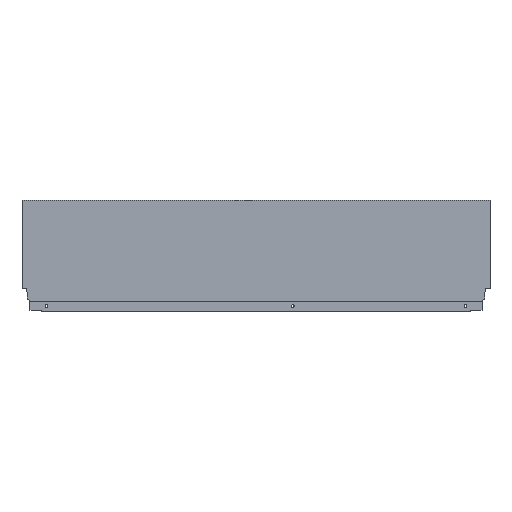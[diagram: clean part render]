
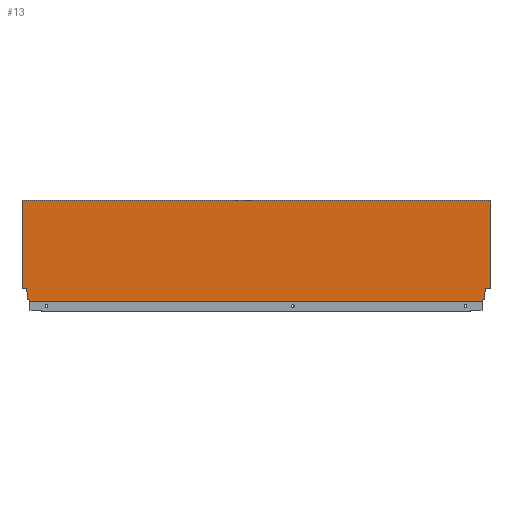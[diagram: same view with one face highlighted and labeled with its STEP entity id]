
A CAD part, top view. The second image highlights one B-rep face of the part: STEP entity #13.
In plain terms, the highlighted planar face has unit normal (0, 0, 1).
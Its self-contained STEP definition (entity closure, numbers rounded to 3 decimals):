
#13 = ADVANCED_FACE ( 'NONE', ( #276 ), #1094, .T. ) ;
#185 = ORIENTED_EDGE ( 'NONE', *, *, #521, .F. ) ;
#186 = ORIENTED_EDGE ( 'NONE', *, *, #526, .F. ) ;
#187 = ORIENTED_EDGE ( 'NONE', *, *, #523, .F. ) ;
#188 = ORIENTED_EDGE ( 'NONE', *, *, #525, .F. ) ;
#189 = ORIENTED_EDGE ( 'NONE', *, *, #527, .F. ) ;
#190 = ORIENTED_EDGE ( 'NONE', *, *, #528, .F. ) ;
#191 = ORIENTED_EDGE ( 'NONE', *, *, #530, .F. ) ;
#192 = ORIENTED_EDGE ( 'NONE', *, *, #535, .T. ) ;
#193 = ORIENTED_EDGE ( 'NONE', *, *, #540, .F. ) ;
#194 = ORIENTED_EDGE ( 'NONE', *, *, #531, .F. ) ;
#195 = ORIENTED_EDGE ( 'NONE', *, *, #532, .F. ) ;
#196 = ORIENTED_EDGE ( 'NONE', *, *, #533, .F. ) ;
#197 = ORIENTED_EDGE ( 'NONE', *, *, #534, .F. ) ;
#198 = ORIENTED_EDGE ( 'NONE', *, *, #529, .T. ) ;
#250 = EDGE_LOOP ( 'NONE', ( #198, #197, #196, #195, #194, #193, #192, #191, #190, #189, #188, #187, #186, #185 ) ) ;
#276 = FACE_OUTER_BOUND ( 'NONE', #250, .T. ) ;
#521 = EDGE_CURVE ( 'NONE', #1107, #1183, #712, .T. ) ;
#523 = EDGE_CURVE ( 'NONE', #1188, #1230, #716, .T. ) ;
#525 = EDGE_CURVE ( 'NONE', #1230, #1158, #720, .T. ) ;
#526 = EDGE_CURVE ( 'NONE', #1183, #1188, #722, .T. ) ;
#527 = EDGE_CURVE ( 'NONE', #1158, #1161, #724, .T. ) ;
#528 = EDGE_CURVE ( 'NONE', #1161, #1186, #726, .T. ) ;
#529 = EDGE_CURVE ( 'NONE', #1107, #1200, #728, .T. ) ;
#530 = EDGE_CURVE ( 'NONE', #1186, #1101, #707, .T. ) ;
#531 = EDGE_CURVE ( 'NONE', #1236, #1178, #731, .T. ) ;
#532 = EDGE_CURVE ( 'NONE', #1178, #1102, #733, .T. ) ;
#533 = EDGE_CURVE ( 'NONE', #1102, #1190, #735, .T. ) ;
#534 = EDGE_CURVE ( 'NONE', #1190, #1200, #737, .T. ) ;
#535 = EDGE_CURVE ( 'NONE', #1194, #1101, #739, .T. ) ;
#540 = EDGE_CURVE ( 'NONE', #1194, #1236, #715, .T. ) ;
#562 = AXIS2_PLACEMENT_3D ( 'NONE', #1093, #1062, #1061 ) ;
#707 = LINE ( 'NONE', #932, #730 ) ;
#709 = VECTOR ( 'NONE', #987, 1000. ) ;
#712 = LINE ( 'NONE', #1025, #713 ) ;
#713 = VECTOR ( 'NONE', #961, 1000. ) ;
#715 = LINE ( 'NONE', #985, #709 ) ;
#716 = LINE ( 'NONE', #1023, #717 ) ;
#717 = VECTOR ( 'NONE', #951, 1000. ) ;
#720 = LINE ( 'NONE', #934, #721 ) ;
#721 = VECTOR ( 'NONE', #935, 1000. ) ;
#722 = LINE ( 'NONE', #936, #723 ) ;
#723 = VECTOR ( 'NONE', #937, 1000. ) ;
#724 = LINE ( 'NONE', #939, #725 ) ;
#725 = VECTOR ( 'NONE', #940, 1000. ) ;
#726 = LINE ( 'NONE', #941, #727 ) ;
#727 = VECTOR ( 'NONE', #942, 1000. ) ;
#728 = LINE ( 'NONE', #918, #729 ) ;
#729 = VECTOR ( 'NONE', #917, 1000. ) ;
#730 = VECTOR ( 'NONE', #921, 1000. ) ;
#731 = LINE ( 'NONE', #919, #732 ) ;
#732 = VECTOR ( 'NONE', #993, 1000. ) ;
#733 = LINE ( 'NONE', #1003, #734 ) ;
#734 = VECTOR ( 'NONE', #1007, 1000. ) ;
#735 = LINE ( 'NONE', #1004, #736 ) ;
#736 = VECTOR ( 'NONE', #990, 1000. ) ;
#737 = LINE ( 'NONE', #1000, #738 ) ;
#738 = VECTOR ( 'NONE', #996, 1000. ) ;
#739 = LINE ( 'NONE', #994, #740 ) ;
#740 = VECTOR ( 'NONE', #998, 1000. ) ;
#798 = CARTESIAN_POINT ( 'NONE',  ( 0., 164.7, 7.5 ) ) ;
#800 = CARTESIAN_POINT ( 'NONE',  ( -754.1, 2.64, 7.5 ) ) ;
#807 = CARTESIAN_POINT ( 'NONE',  ( -755.94, 21.2, 7.5 ) ) ;
#809 = CARTESIAN_POINT ( 'NONE',  ( -8.9, 10.765, 7.5 ) ) ;
#810 = CARTESIAN_POINT ( 'NONE',  ( -8.9, 2.64, 7.5 ) ) ;
#820 = CARTESIAN_POINT ( 'NONE',  ( -763., 164.7, 7.5 ) ) ;
#823 = CARTESIAN_POINT ( 'NONE',  ( -13.004, 0., 7.5 ) ) ;
#832 = CARTESIAN_POINT ( 'NONE',  ( -754.1, 10.765, 7.5 ) ) ;
#847 = CARTESIAN_POINT ( 'NONE',  ( -749.996, 0., 7.5 ) ) ;
#862 = CARTESIAN_POINT ( 'NONE',  ( -763., 21.2, 7.5 ) ) ;
#917 = DIRECTION ( 'NONE',  ( 0., -1., 0. ) ) ;
#918 = CARTESIAN_POINT ( 'NONE',  ( -763., 0., 7.5 ) ) ;
#919 = CARTESIAN_POINT ( 'NONE',  ( -754.1, 2.64, 7.5 ) ) ;
#921 = DIRECTION ( 'NONE',  ( 0., -1., 0. ) ) ;
#922 = CARTESIAN_POINT ( 'NONE',  ( -749.996, 1.146, 7.5 ) ) ;
#929 = CARTESIAN_POINT ( 'NONE',  ( 0., 21.2, 7.5 ) ) ;
#930 = CARTESIAN_POINT ( 'NONE',  ( -13.004, 1.146, 7.5 ) ) ;
#932 = CARTESIAN_POINT ( 'NONE',  ( -13.004, 1.146, 7.5 ) ) ;
#934 = CARTESIAN_POINT ( 'NONE',  ( -7.06, 21.2, 7.5 ) ) ;
#935 = DIRECTION ( 'NONE',  ( -0.174, -0.985, 0. ) ) ;
#936 = CARTESIAN_POINT ( 'NONE',  ( 0., 0., 7.5 ) ) ;
#937 = DIRECTION ( 'NONE',  ( 0., -1., 0. ) ) ;
#939 = CARTESIAN_POINT ( 'NONE',  ( -8.9, 10.765, 7.5 ) ) ;
#940 = DIRECTION ( 'NONE',  ( 0., -1., 0. ) ) ;
#941 = CARTESIAN_POINT ( 'NONE',  ( -8.9, 2.64, 7.5 ) ) ;
#942 = DIRECTION ( 'NONE',  ( -0.94, -0.342, 0. ) ) ;
#951 = DIRECTION ( 'NONE',  ( -1., 0., 0. ) ) ;
#961 = DIRECTION ( 'NONE',  ( 1., 0., 0. ) ) ;
#985 = CARTESIAN_POINT ( 'NONE',  ( -749.996, 1.146, 7.5 ) ) ;
#987 = DIRECTION ( 'NONE',  ( 0., 1., 0. ) ) ;
#990 = DIRECTION ( 'NONE',  ( -0.174, 0.985, 0. ) ) ;
#993 = DIRECTION ( 'NONE',  ( -0.94, 0.342, 0. ) ) ;
#994 = CARTESIAN_POINT ( 'NONE',  ( -763., 0., 7.5 ) ) ;
#996 = DIRECTION ( 'NONE',  ( -1., 0., 0. ) ) ;
#998 = DIRECTION ( 'NONE',  ( 1., 0., 0. ) ) ;
#1000 = CARTESIAN_POINT ( 'NONE',  ( -768., 21.2, 7.5 ) ) ;
#1003 = CARTESIAN_POINT ( 'NONE',  ( -754.1, 10.765, 7.5 ) ) ;
#1004 = CARTESIAN_POINT ( 'NONE',  ( -755.94, 21.2, 7.5 ) ) ;
#1007 = DIRECTION ( 'NONE',  ( 0., 1., 0. ) ) ;
#1010 = CARTESIAN_POINT ( 'NONE',  ( -7.06, 21.2, 7.5 ) ) ;
#1023 = CARTESIAN_POINT ( 'NONE',  ( 0., 21.2, 7.5 ) ) ;
#1025 = CARTESIAN_POINT ( 'NONE',  ( -763., 164.7, 7.5 ) ) ;
#1061 = DIRECTION ( 'NONE',  ( 1., 0., 0. ) ) ;
#1062 = DIRECTION ( 'NONE',  ( 0., 0., 1. ) ) ;
#1093 = CARTESIAN_POINT ( 'NONE',  ( -763., 0., 7.5 ) ) ;
#1094 = PLANE ( 'NONE',  #562 ) ;
#1101 = VERTEX_POINT ( 'NONE', #823 ) ;
#1102 = VERTEX_POINT ( 'NONE', #832 ) ;
#1107 = VERTEX_POINT ( 'NONE', #820 ) ;
#1158 = VERTEX_POINT ( 'NONE', #809 ) ;
#1161 = VERTEX_POINT ( 'NONE', #810 ) ;
#1178 = VERTEX_POINT ( 'NONE', #800 ) ;
#1183 = VERTEX_POINT ( 'NONE', #798 ) ;
#1186 = VERTEX_POINT ( 'NONE', #930 ) ;
#1188 = VERTEX_POINT ( 'NONE', #929 ) ;
#1190 = VERTEX_POINT ( 'NONE', #807 ) ;
#1194 = VERTEX_POINT ( 'NONE', #847 ) ;
#1200 = VERTEX_POINT ( 'NONE', #862 ) ;
#1230 = VERTEX_POINT ( 'NONE', #1010 ) ;
#1236 = VERTEX_POINT ( 'NONE', #922 ) ;
